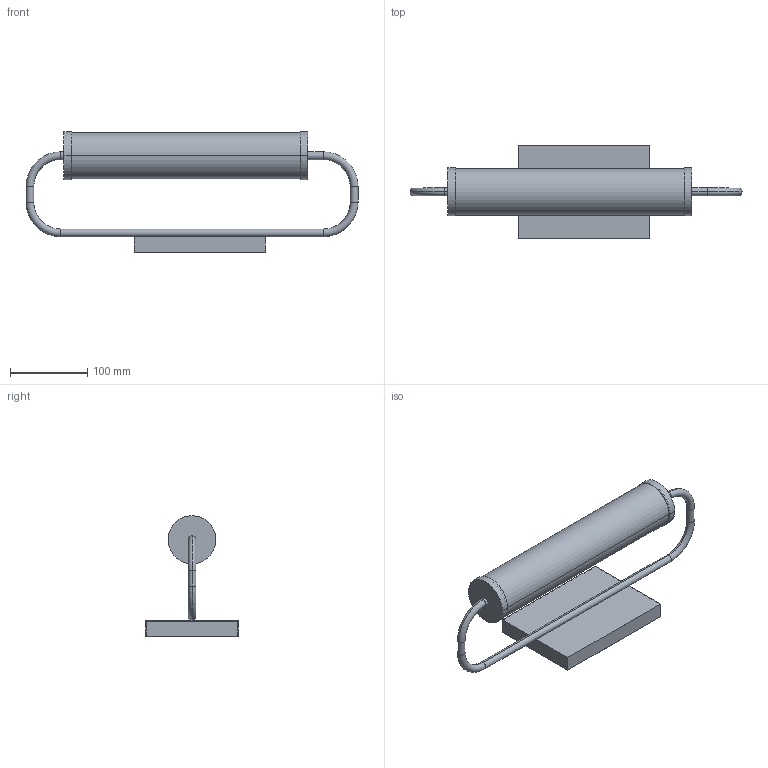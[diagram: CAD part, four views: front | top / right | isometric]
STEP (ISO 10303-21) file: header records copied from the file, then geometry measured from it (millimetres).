
FILE_DESCRIPTION (( 'STEP AP214' ), '1' );
FILE_NAME ('ISON_AU1298.STEP', '2026-06-08T15:15:06', ( '' ), ( '' ), 'SwSTEP 2.0', 'SolidWorks 2023', '' );
FILE_SCHEMA (( 'AUTOMOTIVE_DESIGN' ));
Length unit declared in the file: inch
Products named in the file (1): ISON_AU1298
Bounding box: 430 x 119.89 x 156 mm (x, y, z)
Volume: 293013.7 mm3; surface area: 209185.2 mm2
Topology: 5 solids, 5 shells, 51 faces, 98 edges, 60 vertices
Faces by surface type: cylinder 22, plane 21, torus 8
Entity records: 1371 total; most frequent: DIRECTION 254, CARTESIAN_POINT 210, ORIENTED_EDGE 196, AXIS2_PLACEMENT_3D 104, EDGE_CURVE 98, VERTEX_POINT 60, EDGE_LOOP 56, CIRCLE 52
